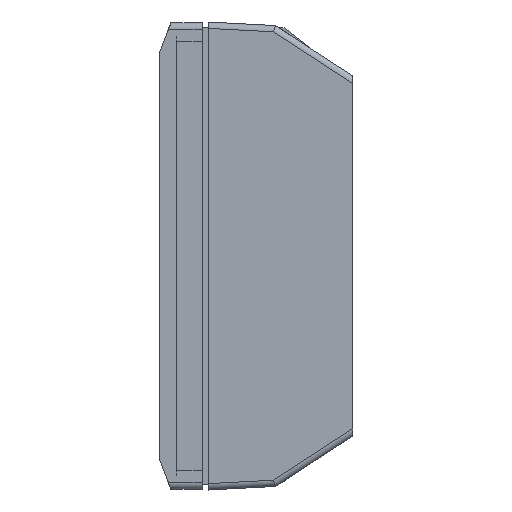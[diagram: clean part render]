
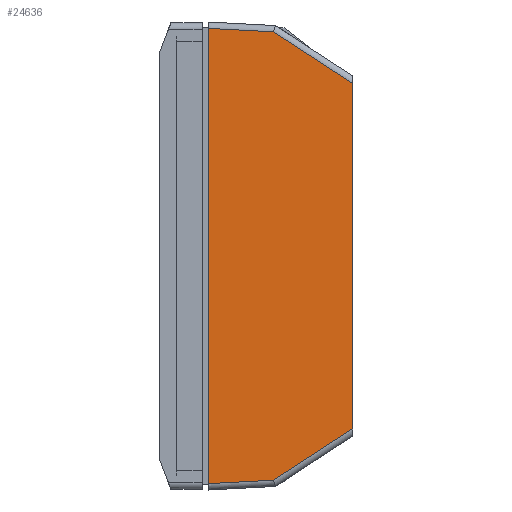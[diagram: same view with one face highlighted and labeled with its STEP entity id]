
A CAD part, left-side view. The second image highlights one B-rep face of the part: STEP entity #24636.
In plain terms, the highlighted planar face has unit normal (-1, 0, 0).
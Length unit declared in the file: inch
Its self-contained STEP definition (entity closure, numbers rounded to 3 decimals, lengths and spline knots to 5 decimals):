
#442 = ORIENTED_EDGE ( 'NONE', *, *, #58031, .T. ) ;
#1976 = LINE ( 'NONE', #64154, #95153 ) ;
#3170 = DIRECTION ( 'NONE',  ( 0., 0., -1. ) ) ;
#3597 = CARTESIAN_POINT ( 'NONE',  ( -4.964, -1.475, 2.3835 ) ) ;
#4605 = ORIENTED_EDGE ( 'NONE', *, *, #46415, .T. ) ;
#7690 = VECTOR ( 'NONE', #19139, 39.37008 ) ;
#8514 = DIRECTION ( 'NONE',  ( 0., 0., -1. ) ) ;
#10615 = DIRECTION ( 'NONE',  ( 1., 0., 0. ) ) ;
#12747 = CARTESIAN_POINT ( 'NONE',  ( -4.964, 0.0034, 2.31859 ) ) ;
#14938 = LINE ( 'NONE', #3597, #7690 ) ;
#15919 = LINE ( 'NONE', #12747, #74060 ) ;
#17276 = LINE ( 'NONE', #54540, #35397 ) ;
#19139 = DIRECTION ( 'NONE',  ( 0., 0., -1. ) ) ;
#20342 = CARTESIAN_POINT ( 'NONE',  ( -4.964, -1.4396, -1.7807 ) ) ;
#21376 = FACE_OUTER_BOUND ( 'NONE', #81771, .T. ) ;
#24636 = ADVANCED_FACE ( 'NONE', ( #21376 ), #95511, .F. ) ;
#28087 = DIRECTION ( 'NONE',  ( 0., -0.839, 0.545 ) ) ;
#29149 = DIRECTION ( 'NONE',  ( 0., 0.839, 0.545 ) ) ;
#33064 = DIRECTION ( 'NONE',  ( 0., -0.999, 0.052 ) ) ;
#35073 = DIRECTION ( 'NONE',  ( 0., 0.999, 0.052 ) ) ;
#35397 = VECTOR ( 'NONE', #8514, 39.37008 ) ;
#38722 = CARTESIAN_POINT ( 'NONE',  ( -4.964, 0., 2.31841 ) ) ;
#39899 = ORIENTED_EDGE ( 'NONE', *, *, #45947, .T. ) ;
#39984 = ORIENTED_EDGE ( 'NONE', *, *, #74679, .T. ) ;
#42643 = VERTEX_POINT ( 'NONE', #80966 ) ;
#44570 = VERTEX_POINT ( 'NONE', #88514 ) ;
#45947 = EDGE_CURVE ( 'NONE', #42643, #91736, #15919, .T. ) ;
#46415 = EDGE_CURVE ( 'NONE', #82802, #42643, #67924, .T. ) ;
#51126 = CARTESIAN_POINT ( 'NONE',  ( -4.964, -1.475, 1.75771 ) ) ;
#52833 = EDGE_CURVE ( 'NONE', #44570, #78907, #80902, .T. ) ;
#53443 = VECTOR ( 'NONE', #29149, 39.37008 ) ;
#54540 = CARTESIAN_POINT ( 'NONE',  ( -4.964, 0., 2.3835 ) ) ;
#57295 = EDGE_CURVE ( 'NONE', #82802, #78907, #14938, .T. ) ;
#58031 = EDGE_CURVE ( 'NONE', #91736, #68363, #17276, .T. ) ;
#62374 = CARTESIAN_POINT ( 'NONE',  ( -4.964, 0., 2.3835 ) ) ;
#63254 = ORIENTED_EDGE ( 'NONE', *, *, #52833, .T. ) ;
#63899 = VECTOR ( 'NONE', #28087, 39.37008 ) ;
#64154 = CARTESIAN_POINT ( 'NONE',  ( -4.964, -0.24574, -2.30553 ) ) ;
#65387 = CARTESIAN_POINT ( 'NONE',  ( -4.964, 0., -2.31841 ) ) ;
#67924 = LINE ( 'NONE', #82297, #53443 ) ;
#68363 = VERTEX_POINT ( 'NONE', #65387 ) ;
#71679 = AXIS2_PLACEMENT_3D ( 'NONE', #62374, #10615, #3170 ) ;
#74060 = VECTOR ( 'NONE', #35073, 39.37008 ) ;
#74679 = EDGE_CURVE ( 'NONE', #68363, #44570, #1976, .T. ) ;
#78122 = ORIENTED_EDGE ( 'NONE', *, *, #57295, .F. ) ;
#78907 = VERTEX_POINT ( 'NONE', #78995 ) ;
#78995 = CARTESIAN_POINT ( 'NONE',  ( -4.964, -1.475, -1.75771 ) ) ;
#80902 = LINE ( 'NONE', #20342, #63899 ) ;
#80966 = CARTESIAN_POINT ( 'NONE',  ( -4.964, -0.66529, 2.28354 ) ) ;
#81771 = EDGE_LOOP ( 'NONE', ( #39984, #63254, #78122, #4605, #39899, #442 ) ) ;
#82297 = CARTESIAN_POINT ( 'NONE',  ( -4.964, -0.65068, 2.29303 ) ) ;
#82802 = VERTEX_POINT ( 'NONE', #51126 ) ;
#88514 = CARTESIAN_POINT ( 'NONE',  ( -4.964, -0.66529, -2.28354 ) ) ;
#91736 = VERTEX_POINT ( 'NONE', #38722 ) ;
#95153 = VECTOR ( 'NONE', #33064, 39.37008 ) ;
#95511 = PLANE ( 'NONE',  #71679 ) ;
